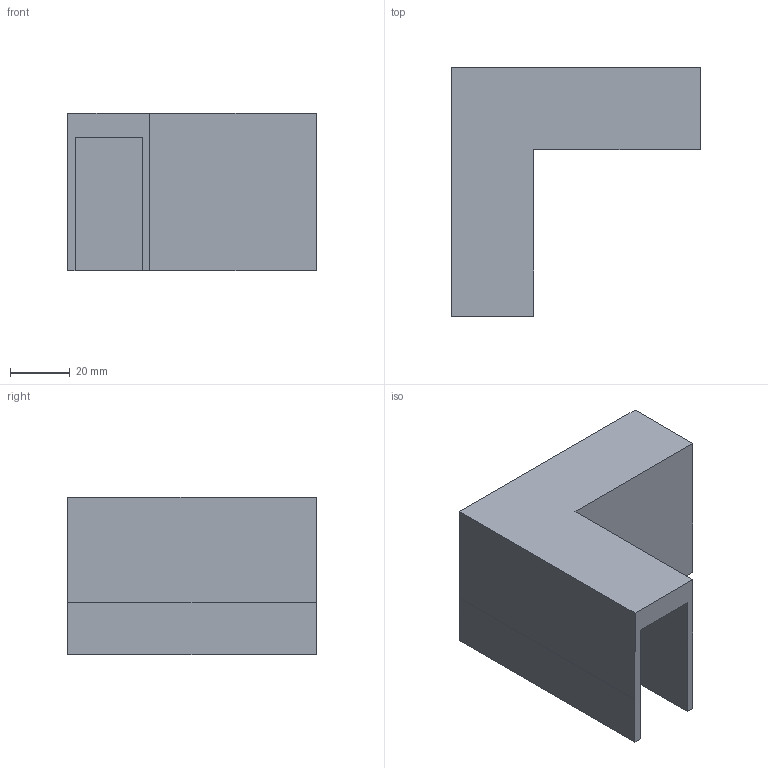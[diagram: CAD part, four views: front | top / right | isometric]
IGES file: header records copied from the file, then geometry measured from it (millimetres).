
Start section: SolidWorks IGES file using analytic representation for surfaces
Global section: file name: X:\PRODUKT\Modele 3D_WWW\_KOLEKCJE WWW\_LVM\LVM-RECESSED-HORIZONTAL-CORNER-10158\LVM-RECESSED-HORIZONTAL-CORNER-10158.IGS; native system: SolidWorks 2021; preprocessor: SolidWorks 2021; author: gabriela.tworek; date: 220510.083913; units: millimetre
Bounding box: 83.52 x 83.52 x 53 mm (x, y, z)
Surface area: 35865.2 mm2 (no closed solid volume)
Topology: 0 solids, 0 shells, 17 faces, 84 edges, 84 vertices
Faces by surface type: bspline 17
